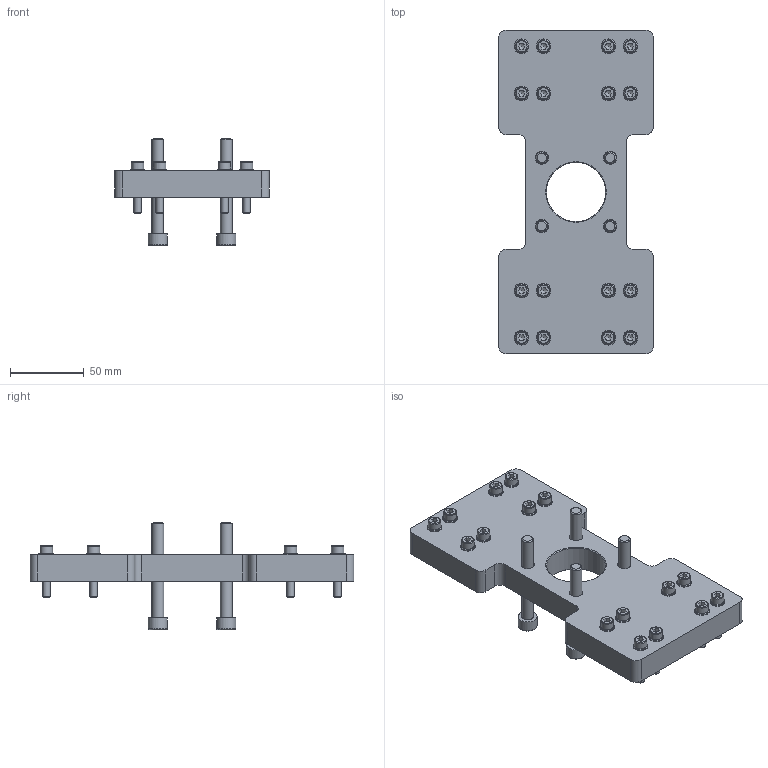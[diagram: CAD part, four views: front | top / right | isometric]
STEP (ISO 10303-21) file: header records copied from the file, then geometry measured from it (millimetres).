
FILE_DESCRIPTION(/* description */ ('Crossbar ETH050 with outrigger bearing'),/* implementation_level */ '2;1');
FILE_NAME(/* name */ 'D:\InventorWorkspace2017\CAD\Projekte_EDEM\HLR\Zubehörteile\0242.035-04.stp',/* time_stamp */ '2019-02-13T11:55:19+01:00',/* author */ ('544672'),/* organization */ (''),/* preprocessor_version */ 'ST-DEVELOPER v16.5',/* originating_system */ 'Autodesk Inventor 2017',/* authorisation */ '');
FILE_SCHEMA (('AUTOMOTIVE_DESIGN { 1 0 10303 214 3 1 1 }'));
Length unit declared in the file: millimetre
Products named in the file (5): 0242.035-04; 0241.028; 130-302323; 135-728812; 130-302383
Assembly tree (37 placements, depth 2):
  0242.035-04
    0241.028
    130-302323  x16
    135-728812  x16
    130-302383  x4
Bounding box: 105 x 220 x 73 mm (x, y, z)
Volume: 360036.1 mm3; surface area: 81874 mm2
Topology: 37 solids, 37 shells, 429 faces, 927 edges, 592 vertices
Faces by surface type: plane 226, cylinder 105, cone 58, torus 40
Full cylindrical faces by diameter (mm): 5 x16, 5.3 x16, 5.5 x16, 8 x4, 8.5 x16, 9 x4, 10 x16, 13 x4, 40.1 x1
Entity records: 2824 total; most frequent: DIRECTION 498, CARTESIAN_POINT 456, ORIENTED_EDGE 342, AXIS2_PLACEMENT_3D 213, EDGE_CURVE 171, EDGE_LOOP 168, VERTEX_POINT 135, CIRCLE 87
